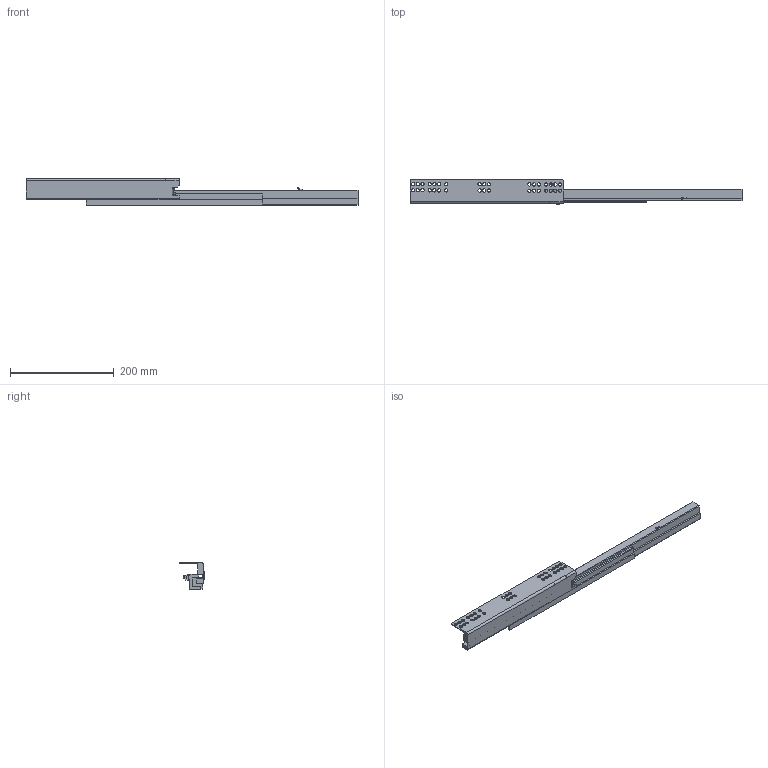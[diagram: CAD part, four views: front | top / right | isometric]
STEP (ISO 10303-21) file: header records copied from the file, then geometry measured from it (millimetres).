
FILE_DESCRIPTION (( 'STEP AP203' ), '1' );
FILE_NAME ('TS10400H-L-DTC3D-open.STEP', '2021-07-09T03:23:44', ( 'df' ), ( 'Microsoft' ), 'SwSTEP 2.0', 'SolidWorks 2018', '' );
FILE_SCHEMA (( 'CONFIG_CONTROL_DESIGN' ));
Length unit declared in the file: millimetre
Products named in the file (1): TS10400H-L-DTC3D-open
Bounding box: 639.3 x 48 x 51.73 mm (x, y, z)
Volume: 378614.2 mm3; surface area: 107226.2 mm2
Topology: 1 solids, 1 shells, 317 faces, 890 edges, 582 vertices
Faces by surface type: cylinder 128, plane 119, bspline 49, torus 17, sphere 4
Entity records: 12079 total; most frequent: CARTESIAN_POINT 3824, ORIENTED_EDGE 1772, DIRECTION 1596, EDGE_CURVE 886, VERTEX_POINT 582, AXIS2_PLACEMENT_3D 558, VECTOR 480, LINE 480
